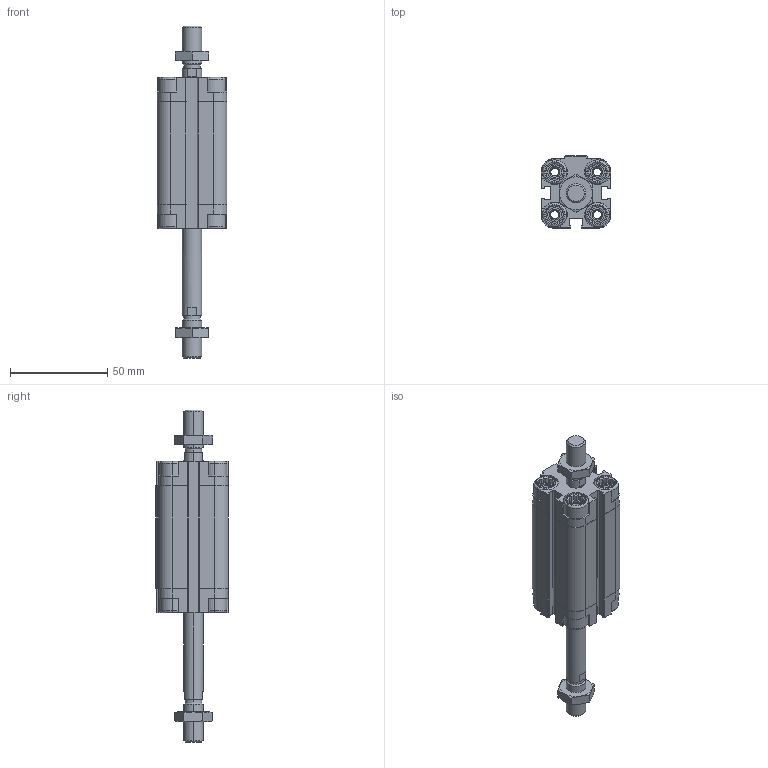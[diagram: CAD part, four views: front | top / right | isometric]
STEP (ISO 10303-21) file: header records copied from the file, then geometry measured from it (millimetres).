
FILE_DESCRIPTION (( 'STEP AP203' ), '1' );
FILE_NAME ('CDVU20-40M-P.STEP', '2020-07-21T15:08:36', ( '' ), ( '' ), 'SwSTEP 2.0', 'SolidWorks 2019', '' );
FILE_SCHEMA (( 'CONFIG_CONTROL_DESIGN' ));
Length unit declared in the file: millimetre
Products named in the file (1): CDVU20-40M-P
Bounding box: 36 x 37.5 x 171 mm (x, y, z)
Volume: 77521.7 mm3; surface area: 37370.5 mm2
Topology: 4 solids, 4 shells, 642 faces, 1674 edges, 1078 vertices
Faces by surface type: plane 374, cylinder 188, cone 64, torus 16
Entity records: 20369 total; most frequent: CARTESIAN_POINT 4535, ORIENTED_EDGE 3340, DIRECTION 3212, EDGE_CURVE 1670, AXIS2_PLACEMENT_3D 1115, VERTEX_POINT 1078, LINE 982, VECTOR 982
